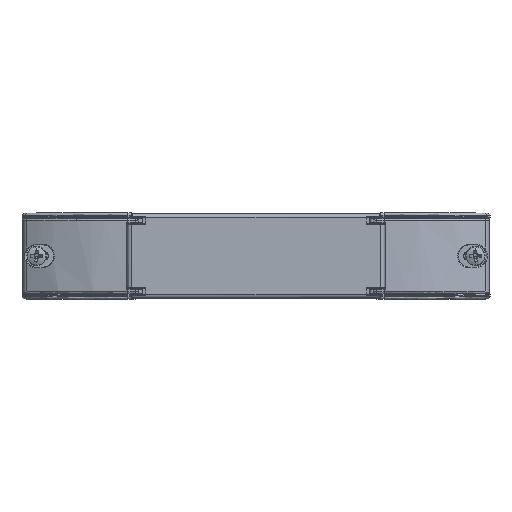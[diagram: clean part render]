
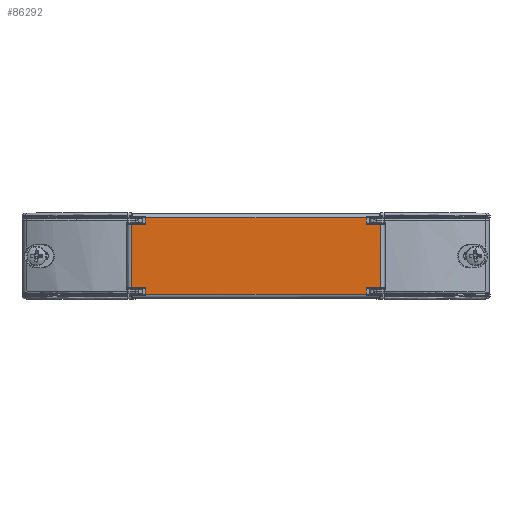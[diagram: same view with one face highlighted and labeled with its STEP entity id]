
A CAD part, top view. The second image highlights one B-rep face of the part: STEP entity #86292.
In plain terms, the highlighted planar face has unit normal (0, 0, 1).
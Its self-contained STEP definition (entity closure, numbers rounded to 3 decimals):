
#1472 = VECTOR ( 'NONE', #13840, 1000. ) ;
#1553 = CARTESIAN_POINT ( 'NONE',  ( 45.6, 13.494, 22.2 ) ) ;
#3804 = EDGE_CURVE ( 'NONE', #23983, #43909, #66062, .T. ) ;
#4000 = CARTESIAN_POINT ( 'NONE',  ( 45.6, -11.154, 22.2 ) ) ;
#4197 = VECTOR ( 'NONE', #36584, 1000. ) ;
#4592 = DIRECTION ( 'NONE',  ( 0., 1., 0. ) ) ;
#5760 = CARTESIAN_POINT ( 'NONE',  ( -43.994, -11.352, 22.2 ) ) ;
#5950 = EDGE_CURVE ( 'NONE', #11664, #58615, #31967, .T. ) ;
#11664 = VERTEX_POINT ( 'NONE', #49858 ) ;
#12771 = ORIENTED_EDGE ( 'NONE', *, *, #33402, .T. ) ;
#13840 = DIRECTION ( 'NONE',  ( 0., -1., 0. ) ) ;
#13851 = VECTOR ( 'NONE', #16599, 1000. ) ;
#15030 = EDGE_LOOP ( 'NONE', ( #40857, #52956, #73421, #70389, #63325, #43809, #85523, #12771, #54754, #49124, #35326, #88880 ) ) ;
#16599 = DIRECTION ( 'NONE',  ( 1., 0., 0. ) ) ;
#17770 = VERTEX_POINT ( 'NONE', #22735 ) ;
#22173 = VERTEX_POINT ( 'NONE', #30053 ) ;
#22181 = CARTESIAN_POINT ( 'NONE',  ( 45.6, -13.494, 22.2 ) ) ;
#22735 = CARTESIAN_POINT ( 'NONE',  ( 43.994, 11.154, 22.2 ) ) ;
#23983 = VERTEX_POINT ( 'NONE', #61067 ) ;
#25040 = CARTESIAN_POINT ( 'NONE',  ( 45.6, 11.154, 22.2 ) ) ;
#28458 = LINE ( 'NONE', #22181, #50220 ) ;
#29303 = VERTEX_POINT ( 'NONE', #63698 ) ;
#30053 = CARTESIAN_POINT ( 'NONE',  ( 38.854, 13.494, 22.2 ) ) ;
#30079 = LINE ( 'NONE', #4000, #13851 ) ;
#30735 = VECTOR ( 'NONE', #84597, 1000. ) ;
#31967 = LINE ( 'NONE', #53482, #47456 ) ;
#32230 = VECTOR ( 'NONE', #75221, 1000. ) ;
#32526 = DIRECTION ( 'NONE',  ( 0., 1., 0. ) ) ;
#32721 = VERTEX_POINT ( 'NONE', #66372 ) ;
#32779 = EDGE_CURVE ( 'NONE', #29303, #64606, #33156, .T. ) ;
#33156 = LINE ( 'NONE', #5760, #66779 ) ;
#33324 = VECTOR ( 'NONE', #70649, 1000. ) ;
#33401 = DIRECTION ( 'NONE',  ( 0., 0., -1. ) ) ;
#33402 = EDGE_CURVE ( 'NONE', #58615, #64686, #30079, .T. ) ;
#35326 = ORIENTED_EDGE ( 'NONE', *, *, #49901, .T. ) ;
#36584 = DIRECTION ( 'NONE',  ( -1., 0., 0. ) ) ;
#38008 = LINE ( 'NONE', #25040, #78500 ) ;
#38628 = CARTESIAN_POINT ( 'NONE',  ( 43.994, -11.154, 22.2 ) ) ;
#40857 = ORIENTED_EDGE ( 'NONE', *, *, #3804, .T. ) ;
#42631 = VERTEX_POINT ( 'NONE', #76545 ) ;
#43157 = CARTESIAN_POINT ( 'NONE',  ( -43.994, -11.154, 22.2 ) ) ;
#43809 = ORIENTED_EDGE ( 'NONE', *, *, #71636, .T. ) ;
#43909 = VERTEX_POINT ( 'NONE', #55167 ) ;
#45972 = PLANE ( 'NONE',  #82687 ) ;
#46873 = LINE ( 'NONE', #74273, #78888 ) ;
#46962 = EDGE_CURVE ( 'NONE', #17770, #32721, #38008, .T. ) ;
#47456 = VECTOR ( 'NONE', #4592, 1000. ) ;
#48711 = CARTESIAN_POINT ( 'NONE',  ( 45.6, -11.154, 22.2 ) ) ;
#49124 = ORIENTED_EDGE ( 'NONE', *, *, #46962, .T. ) ;
#49125 = LINE ( 'NONE', #57199, #30735 ) ;
#49858 = CARTESIAN_POINT ( 'NONE',  ( 38.854, -13.494, 22.2 ) ) ;
#49901 = EDGE_CURVE ( 'NONE', #32721, #22173, #46873, .T. ) ;
#50220 = VECTOR ( 'NONE', #70184, 1000. ) ;
#52956 = ORIENTED_EDGE ( 'NONE', *, *, #76159, .T. ) ;
#53482 = CARTESIAN_POINT ( 'NONE',  ( 38.854, -11.352, 22.2 ) ) ;
#53592 = FACE_OUTER_BOUND ( 'NONE', #15030, .T. ) ;
#54591 = LINE ( 'NONE', #48711, #32230 ) ;
#54754 = ORIENTED_EDGE ( 'NONE', *, *, #74575, .T. ) ;
#54870 = VERTEX_POINT ( 'NONE', #79937 ) ;
#55128 = CARTESIAN_POINT ( 'NONE',  ( -38.854, 15.1, 22.2 ) ) ;
#55167 = CARTESIAN_POINT ( 'NONE',  ( -38.854, 11.154, 22.2 ) ) ;
#57199 = CARTESIAN_POINT ( 'NONE',  ( -38.854, -13.494, 22.2 ) ) ;
#58615 = VERTEX_POINT ( 'NONE', #66691 ) ;
#61067 = CARTESIAN_POINT ( 'NONE',  ( -38.854, 13.494, 22.2 ) ) ;
#61932 = EDGE_CURVE ( 'NONE', #22173, #23983, #63092, .T. ) ;
#63092 = LINE ( 'NONE', #1553, #4197 ) ;
#63325 = ORIENTED_EDGE ( 'NONE', *, *, #84106, .T. ) ;
#63469 = LINE ( 'NONE', #77355, #33324 ) ;
#63698 = CARTESIAN_POINT ( 'NONE',  ( -43.994, 11.154, 22.2 ) ) ;
#64606 = VERTEX_POINT ( 'NONE', #43157 ) ;
#64686 = VERTEX_POINT ( 'NONE', #38628 ) ;
#66062 = LINE ( 'NONE', #55128, #1472 ) ;
#66372 = CARTESIAN_POINT ( 'NONE',  ( 38.854, 11.154, 22.2 ) ) ;
#66691 = CARTESIAN_POINT ( 'NONE',  ( 38.854, -11.154, 22.2 ) ) ;
#66779 = VECTOR ( 'NONE', #73116, 1000. ) ;
#67914 = LINE ( 'NONE', #88622, #86092 ) ;
#70184 = DIRECTION ( 'NONE',  ( 1., 0., 0. ) ) ;
#70389 = ORIENTED_EDGE ( 'NONE', *, *, #79291, .T. ) ;
#70649 = DIRECTION ( 'NONE',  ( -1., 0., 0. ) ) ;
#71636 = EDGE_CURVE ( 'NONE', #42631, #11664, #28458, .T. ) ;
#73116 = DIRECTION ( 'NONE',  ( 0., -1., 0. ) ) ;
#73376 = CARTESIAN_POINT ( 'NONE',  ( 45.6, 15.1, 22.2 ) ) ;
#73421 = ORIENTED_EDGE ( 'NONE', *, *, #32779, .T. ) ;
#74273 = CARTESIAN_POINT ( 'NONE',  ( 38.854, 15.1, 22.2 ) ) ;
#74575 = EDGE_CURVE ( 'NONE', #64686, #17770, #67914, .T. ) ;
#75221 = DIRECTION ( 'NONE',  ( 1., 0., 0. ) ) ;
#76159 = EDGE_CURVE ( 'NONE', #43909, #29303, #63469, .T. ) ;
#76545 = CARTESIAN_POINT ( 'NONE',  ( -38.854, -13.494, 22.2 ) ) ;
#77355 = CARTESIAN_POINT ( 'NONE',  ( 45.6, 11.154, 22.2 ) ) ;
#78500 = VECTOR ( 'NONE', #86096, 1000. ) ;
#78888 = VECTOR ( 'NONE', #88676, 1000. ) ;
#79291 = EDGE_CURVE ( 'NONE', #64606, #54870, #54591, .T. ) ;
#79937 = CARTESIAN_POINT ( 'NONE',  ( -38.854, -11.154, 22.2 ) ) ;
#82687 = AXIS2_PLACEMENT_3D ( 'NONE', #73376, #33401, #32526 ) ;
#84106 = EDGE_CURVE ( 'NONE', #54870, #42631, #49125, .T. ) ;
#84597 = DIRECTION ( 'NONE',  ( 0., -1., 0. ) ) ;
#85523 = ORIENTED_EDGE ( 'NONE', *, *, #5950, .T. ) ;
#86092 = VECTOR ( 'NONE', #87730, 1000. ) ;
#86096 = DIRECTION ( 'NONE',  ( -1., 0., 0. ) ) ;
#86292 = ADVANCED_FACE ( 'NONE', ( #53592 ), #45972, .F. ) ;
#87730 = DIRECTION ( 'NONE',  ( 0., 1., 0. ) ) ;
#88622 = CARTESIAN_POINT ( 'NONE',  ( 43.994, 15.1, 22.2 ) ) ;
#88676 = DIRECTION ( 'NONE',  ( 0., 1., 0. ) ) ;
#88880 = ORIENTED_EDGE ( 'NONE', *, *, #61932, .T. ) ;
